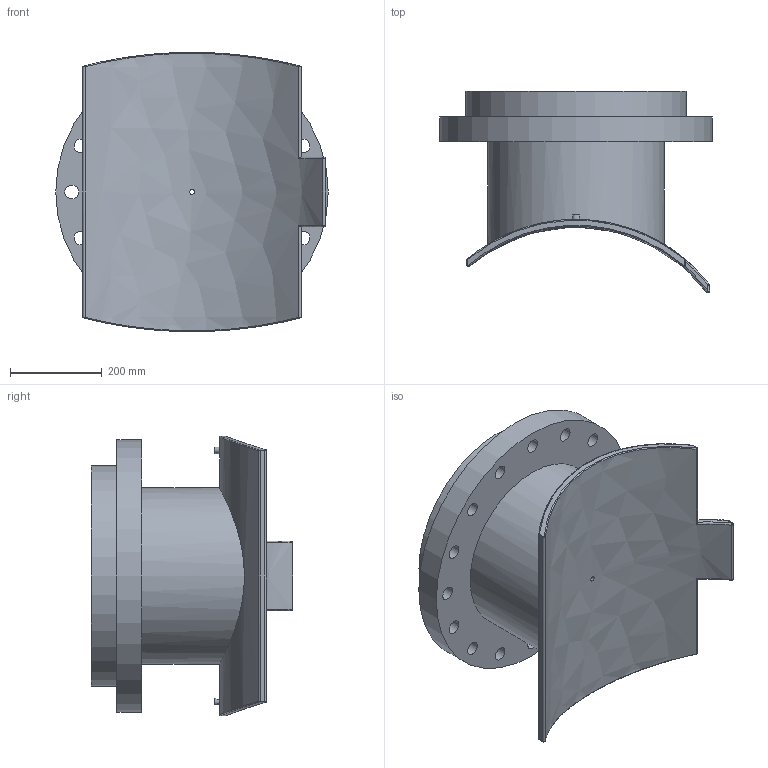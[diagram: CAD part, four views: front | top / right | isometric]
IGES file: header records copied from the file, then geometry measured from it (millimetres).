
Global section: file name: 495903310400T.ipt; native system: Autodesk Inventor 2015; preprocessor: unknown; author: KIM; date: 20190224.125925; units: millimetre
Bounding box: 595 x 439.9 x 609.69 mm (x, y, z)
Volume: 26479056.3 mm3; surface area: 1794292.3 mm2
Topology: 2 solids, 2 shells, 83 faces, 188 edges, 119 vertices
Faces by surface type: revolution 25, cylinder 24, plane 16, bspline 12, sphere 4, cone 2
Full cylindrical faces by diameter (mm): 4 x2, 16 x1, 385.6 x1, 482 x1, 595 x1
